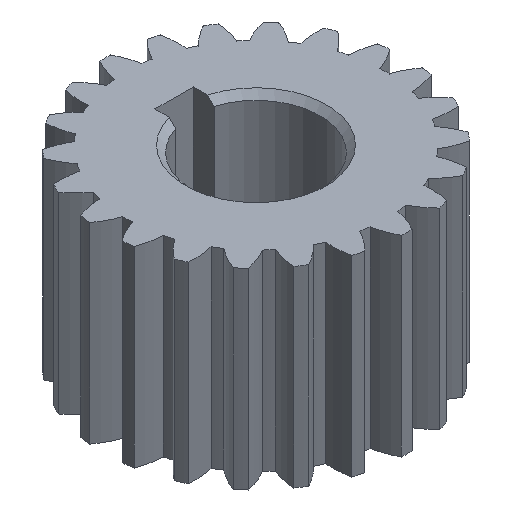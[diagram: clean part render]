
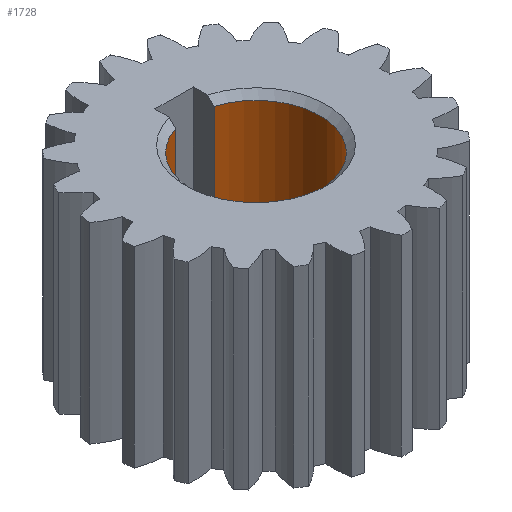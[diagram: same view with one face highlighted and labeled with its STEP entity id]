
A CAD part, isometric view. The second image highlights one B-rep face of the part: STEP entity #1728.
In plain terms, the highlighted cylindrical face has radius 10 mm (diameter 20 mm), a partial arc.
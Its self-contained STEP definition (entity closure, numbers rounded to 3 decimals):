
#15=CYLINDRICAL_SURFACE('',#2027,10.);
#109=LINE('',#2966,#207);
#115=LINE('',#3164,#213);
#207=VECTOR('',#2307,10.);
#213=VECTOR('',#2499,10.);
#314=FACE_OUTER_BOUND('',#412,.T.);
#412=EDGE_LOOP('',(#1363,#1364,#1365,#1366));
#502=CIRCLE('',#1842,10.);
#592=CIRCLE('',#1935,10.);
#685=VERTEX_POINT('',#2770);
#688=VERTEX_POINT('',#2777);
#779=VERTEX_POINT('',#2965);
#782=VERTEX_POINT('',#2975);
#876=EDGE_CURVE('',#688,#685,#502,.T.);
#968=EDGE_CURVE('',#779,#685,#109,.T.);
#974=EDGE_CURVE('',#779,#782,#592,.T.);
#1066=EDGE_CURVE('',#782,#688,#115,.T.);
#1363=ORIENTED_EDGE('',*,*,#876,.F.);
#1364=ORIENTED_EDGE('',*,*,#1066,.F.);
#1365=ORIENTED_EDGE('',*,*,#974,.F.);
#1366=ORIENTED_EDGE('',*,*,#968,.T.);
#1728=ADVANCED_FACE('',(#314),#15,.F.);
#1842=AXIS2_PLACEMENT_3D('',#2781,#2122,#2123);
#1935=AXIS2_PLACEMENT_3D('',#2981,#2314,#2315);
#2027=AXIS2_PLACEMENT_3D('',#3166,#2502,#2503);
#2122=DIRECTION('center_axis',(0.,0.,1.));
#2123=DIRECTION('ref_axis',(1.,0.,0.));
#2307=DIRECTION('',(0.,0.,-1.));
#2314=DIRECTION('center_axis',(0.,0.,-1.));
#2315=DIRECTION('ref_axis',(1.,0.,0.));
#2499=DIRECTION('',(0.,0.,-1.));
#2502=DIRECTION('center_axis',(0.,0.,-1.));
#2503=DIRECTION('ref_axis',(0.,-1.,0.));
#2770=CARTESIAN_POINT('',(3.,9.539,1.));
#2777=CARTESIAN_POINT('',(-3.,9.539,1.));
#2781=CARTESIAN_POINT('Origin',(0.,0.,1.));
#2965=CARTESIAN_POINT('',(3.,9.539,29.));
#2966=CARTESIAN_POINT('',(3.,9.539,30.));
#2975=CARTESIAN_POINT('',(-3.,9.539,29.));
#2981=CARTESIAN_POINT('Origin',(0.,0.,29.));
#3164=CARTESIAN_POINT('',(-3.,9.539,30.));
#3166=CARTESIAN_POINT('Origin',(0.,0.,30.));
